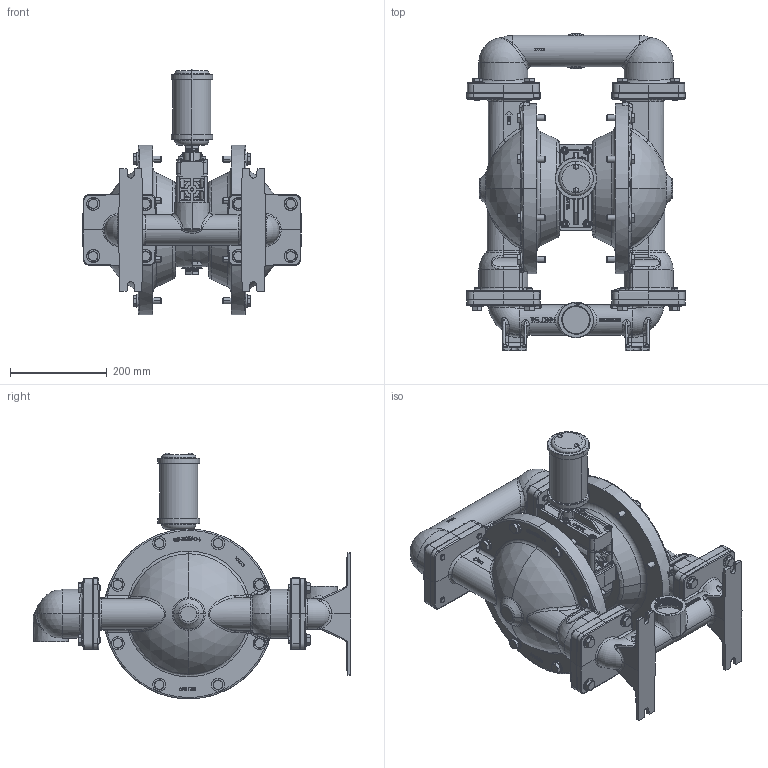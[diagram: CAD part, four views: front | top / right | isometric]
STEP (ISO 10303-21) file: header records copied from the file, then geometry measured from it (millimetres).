
FILE_DESCRIPTION (( 'STEP AP203' ), '1' );
FILE_NAME ('P820_SS_TOP.STEP', '2022-07-05T07:37:47', ( '' ), ( '' ), 'SwSTEP 2.0', 'SolidWorks 2019', '' );
FILE_SCHEMA (( 'CONFIG_CONTROL_DESIGN' ));
Length unit declared in the file: inch
Products named in the file (1): P820_SS_TOP
Bounding box: 452.41 x 657.19 x 508.64 mm (x, y, z)
Volume: 25430173 mm3; surface area: 1263685.4 mm2
Topology: 1 solids, 1 shells, 6176 faces, 16307 edges, 10406 vertices
Faces by surface type: plane 4236, cylinder 869, cone 413, bspline 382, torus 157, sphere 119
Entity records: 308876 total; most frequent: CARTESIAN_POINT 160379, ORIENTED_EDGE 32498, DIRECTION 28125, EDGE_CURVE 16249, LINE 11607, VECTOR 11607, VERTEX_POINT 10389, AXIS2_PLACEMENT_3D 8259
